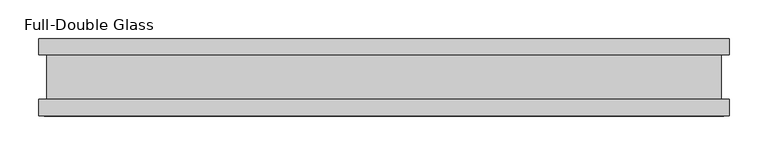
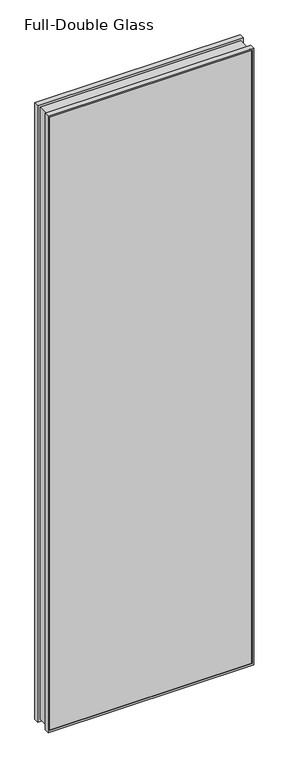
"""IFC4 building model written with IfcOpenShell, lengths in millimetres: proxy geometry, Panel-Fascia-Teknion-Altos-Double_Glass : Full-Double Glass."""

from ifc_helpers import new_model, si_unit, frame, origin, place, context, project, spatial, polyline, ellipse_curve, outline, extrude, source, transform, mapped, element, save
from ifc_brep_helpers import plane_surface, cylinder_surface, advanced_brep


def full_double_glass_8244c30e(model_context):
    return source(origin(), model_context, "Body", "SolidModel", [
        advanced_brep(
        [(447.6253906, -50.0558594, 2844.165), (447.6253906, -50.0558594, 3.175), (447.6253906, -28.2698798, 3.175), (447.6253906, -28.2698798, 2844.165), (440.1901828, -47.1322551, 2836.7297922), (440.1901828, -47.1322551, 10.6102078), (440.1901828, -50.0558594, 10.6102078), (440.1901828, -50.0558594, 2836.7297922), (445.4728643, -41.1791301, 2842.0124737), (445.4728643, -41.1791301, 5.3275263), (445.4728643, -47.1322551, 5.3275263), (445.4728643, -47.1322551, 2842.0124737), (439.6679752, 40.9277344, 2836.2075845), (439.6679752, 40.9277344, 11.1324155), (439.6679752, -41.1791301, 11.1324155), (439.6679752, -41.1791301, 2836.2075845), (445.4728643, 46.8808594, 2842.0124737), (445.4728643, 46.8808594, 5.3275263), (445.4728643, 40.9277344, 5.3275263), (445.4728643, 40.9277344, 2842.0124737), (440.1901828, 50.0558594, 2836.7297922), (440.1901828, 50.0558594, 10.6102078), (440.1901828, 46.8808594, 10.6102078), (440.1901828, 46.8808594, 2836.7297922), (447.6253906, 28.8801202, 2844.165), (447.6253906, 28.8801202, 3.175), (447.6253906, 50.0558594, 3.175), (447.6253906, 50.0558594, 2844.165), (436.7735493, -28.2698798, 2833.3131586), (436.7735493, -28.2698798, 14.0268414), (436.7735493, 28.8801202, 14.0268414), (436.7735493, 28.8801202, 2833.3131586), (-447.6253906, -50.0558594, 3.175), (-447.6253906, -28.2698798, 3.175), (-440.1901828, -47.1322551, 10.6102078), (-440.1901828, -50.0558594, 10.6102078), (-445.4728643, -41.1791301, 5.3275263), (-445.4728643, -47.1322551, 5.3275263), (-439.6679752, 40.9277344, 11.1324155), (-439.6679752, -41.1791301, 11.1324155), (-445.4728643, 46.8808594, 5.3275263), (-445.4728643, 40.9277344, 5.3275263), (-440.1901828, 50.0558594, 10.6102078), (-440.1901828, 46.8808594, 10.6102078), (-447.6253906, 28.8801202, 3.175), (-447.6253906, 50.0558594, 3.175), (-436.7735493, -28.2698798, 14.0268414), (-436.7735493, 28.8801202, 14.0268414), (-447.6253906, -50.0558594, 2844.165), (-447.6253906, -28.2698798, 2844.165), (-440.1901828, -47.1322551, 2836.7297922), (-440.1901828, -50.0558594, 2836.7297922), (-445.4728643, -41.1791301, 2842.0124737), (-445.4728643, -47.1322551, 2842.0124737), (-439.6679752, 40.9277344, 2836.2075845), (-439.6679752, -41.1791301, 2836.2075845), (-445.4728643, 46.8808594, 2842.0124737), (-445.4728643, 40.9277344, 2842.0124737), (-440.1901828, 50.0558594, 2836.7297922), (-440.1901828, 46.8808594, 2836.7297922), (-447.6253906, 28.8801202, 2844.165), (-447.6253906, 50.0558594, 2844.165), (-436.7735493, -28.2698798, 2833.3131586), (-436.7735493, 28.8801202, 2833.3131586)],
        [
            (0, 1),
            (1, 2),
            (2, 3),
            (3, 0),
            (4, 5),
            (5, 6),
            (6, 7),
            (7, 4),
            (8, 9),
            (9, 10),
            (10, 11),
            (11, 8),
            (12, 13),
            (13, 14, ellipse_curve(frame((479.0538175, -0.1256979, -28.2534268), z_axis=(0.7071067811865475, 0.0, 0.7071067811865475), x_axis=(-0.7071067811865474, 0.0, 0.7071067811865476)), 80.4565581, 56.8913778)),
            (14, 15),
            (15, 12, ellipse_curve(frame((479.0538175, -0.1256979, 2875.5934268), z_axis=(0.7071067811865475, 0.0, -0.7071067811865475), x_axis=(0.7071067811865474, 0.0, 0.7071067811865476)), 80.4565581, 56.8913778)),
            (16, 17),
            (17, 18),
            (18, 19),
            (19, 16),
            (20, 21),
            (21, 22),
            (22, 23),
            (23, 20),
            (24, 25),
            (25, 26),
            (26, 27),
            (27, 24),
            (28, 29),
            (29, 30),
            (30, 31),
            (31, 28),
            (1, 32),
            (32, 33),
            (33, 2),
            (5, 34),
            (34, 35),
            (35, 6),
            (9, 36),
            (36, 37),
            (37, 10),
            (13, 38),
            (38, 39, ellipse_curve(frame((-479.0538175, -0.1256979, -28.2534268), z_axis=(0.7071067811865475, 0.0, -0.7071067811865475), x_axis=(0.7071067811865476, 0.0, 0.7071067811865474)), 80.4565581, 56.8913778)),
            (39, 14),
            (17, 40),
            (40, 41),
            (41, 18),
            (21, 42),
            (42, 43),
            (43, 22),
            (25, 44),
            (44, 45),
            (45, 26),
            (29, 46),
            (46, 47),
            (47, 30),
            (32, 48),
            (48, 49),
            (49, 33),
            (34, 50),
            (50, 51),
            (51, 35),
            (36, 52),
            (52, 53),
            (53, 37),
            (38, 54),
            (54, 55, ellipse_curve(frame((-479.0538175, -0.1256979, 2875.5934268), z_axis=(-0.7071067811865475, 0.0, -0.7071067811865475), x_axis=(0.7071067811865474, 0.0, -0.7071067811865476)), 80.4565581, 56.8913778)),
            (55, 39),
            (40, 56),
            (56, 57),
            (57, 41),
            (42, 58),
            (58, 59),
            (59, 43),
            (44, 60),
            (60, 61),
            (61, 45),
            (46, 62),
            (62, 63),
            (63, 47),
            (48, 0),
            (3, 49),
            (51, 7),
            (50, 4),
            (53, 11),
            (52, 8),
            (55, 15),
            (54, 12),
            (57, 19),
            (56, 16),
            (59, 23),
            (58, 20),
            (61, 27),
            (60, 24),
            (63, 31),
            (62, 28),
        ],
        [
            plane_surface(frame((447.6253906, -28.2698798, 2844.165), z_axis=(1.0, 0.0, 0.0), x_axis=(0.0, 0.0, -1.0))),
            plane_surface(frame((440.1901828, -50.0558594, 2836.7297922), z_axis=(-1.0, 0.0, 0.0), x_axis=(0.0, 0.0, -1.0))),
            plane_surface(frame((445.4728643, -47.1322551, 2842.0124737), z_axis=(-1.0, 0.0, 0.0), x_axis=(0.0, 0.0, -1.0))),
            cylinder_surface(frame((479.0538175, -0.1256979, 2844.165), z_axis=(0.0, 0.0, 1.0), x_axis=(1.0, 0.0, 0.0)), 56.8913778),
            plane_surface(frame((445.4728643, 40.9277344, 2842.0124737), z_axis=(-1.0, 0.0, 0.0), x_axis=(0.0, 0.0, -1.0))),
            plane_surface(frame((440.1901828, 46.8808594, 2836.7297922), z_axis=(-1.0, 0.0, 0.0), x_axis=(0.0, 0.0, -1.0))),
            plane_surface(frame((447.6253906, 50.0558594, 2844.165), z_axis=(1.0, 0.0, 0.0), x_axis=(0.0, 0.0, -1.0))),
            plane_surface(frame((436.7735493, 28.8801202, 2833.3131586), z_axis=(1.0, 0.0, 0.0), x_axis=(0.0, 0.0, -1.0))),
            plane_surface(frame((447.6253906, -28.2698798, 3.175), z_axis=(0.0, 0.0, -1.0), x_axis=(-1.0, 0.0, 0.0))),
            plane_surface(frame((440.1901828, -50.0558594, 10.6102078), z_axis=(0.0, 0.0, 1.0), x_axis=(-1.0, 0.0, 0.0))),
            plane_surface(frame((445.4728643, -47.1322551, 5.3275263), z_axis=(0.0, 0.0, 1.0), x_axis=(-1.0, 0.0, 0.0))),
            cylinder_surface(frame((447.6253906, -0.1256979, -28.2534268), z_axis=(1.0, 0.0, 0.0), x_axis=(0.0, 0.0, -1.0)), 56.8913778),
            plane_surface(frame((445.4728643, 40.9277344, 5.3275263), z_axis=(0.0, 0.0, 1.0), x_axis=(-1.0, 0.0, 0.0))),
            plane_surface(frame((440.1901828, 46.8808594, 10.6102078), z_axis=(0.0, 0.0, 1.0), x_axis=(-1.0, 0.0, 0.0))),
            plane_surface(frame((447.6253906, 50.0558594, 3.175), z_axis=(0.0, 0.0, -1.0), x_axis=(-1.0, 0.0, 0.0))),
            plane_surface(frame((436.7735493, 28.8801202, 14.0268414), z_axis=(0.0, 0.0, -1.0), x_axis=(-1.0, 0.0, 0.0))),
            plane_surface(frame((-447.6253906, -28.2698798, 3.175), z_axis=(-1.0, 0.0, 0.0), x_axis=(0.0, 0.0, 1.0))),
            plane_surface(frame((-440.1901828, -50.0558594, 10.6102078), z_axis=(1.0, 0.0, 0.0), x_axis=(0.0, 0.0, 1.0))),
            plane_surface(frame((-445.4728643, -47.1322551, 5.3275263), z_axis=(1.0, 0.0, 0.0), x_axis=(0.0, 0.0, 1.0))),
            cylinder_surface(frame((-479.0538175, -0.1256979, 3.175), z_axis=(0.0, 0.0, -1.0), x_axis=(-1.0, 0.0, 0.0)), 56.8913778),
            plane_surface(frame((-445.4728643, 40.9277344, 5.3275263), z_axis=(1.0, 0.0, 0.0), x_axis=(0.0, 0.0, 1.0))),
            plane_surface(frame((-440.1901828, 46.8808594, 10.6102078), z_axis=(1.0, 0.0, 0.0), x_axis=(0.0, 0.0, 1.0))),
            plane_surface(frame((-447.6253906, 50.0558594, 3.175), z_axis=(-1.0, 0.0, 0.0), x_axis=(0.0, 0.0, 1.0))),
            plane_surface(frame((-436.7735493, 28.8801202, 14.0268414), z_axis=(-1.0, 0.0, 0.0), x_axis=(0.0, 0.0, 1.0))),
            plane_surface(frame((-447.6253906, -28.2698798, 2844.165), z_axis=(0.0, 0.0, 1.0), x_axis=(1.0, 0.0, 0.0))),
            plane_surface(frame((-447.6253906, -50.0558594, 2844.165), z_axis=(0.0, -1.0, 0.0), x_axis=(1.0, 0.0, 0.0))),
            plane_surface(frame((-440.1901828, -50.0558594, 2836.7297922), z_axis=(0.0, 0.0, -1.0), x_axis=(1.0, 0.0, 0.0))),
            plane_surface(frame((-440.1901828, -47.1322551, 2836.7297922), z_axis=(0.0, 1.0, 0.0), x_axis=(1.0, 0.0, 0.0))),
            plane_surface(frame((-445.4728643, -47.1322551, 2842.0124737), z_axis=(0.0, 0.0, -1.0), x_axis=(1.0, 0.0, 0.0))),
            plane_surface(frame((-445.4728643, -41.1791301, 2842.0124737), z_axis=(0.0, -1.0, 0.0), x_axis=(1.0, 0.0, 0.0))),
            cylinder_surface(frame((-447.6253906, -0.1256979, 2875.5934268), z_axis=(-1.0, 0.0, 0.0), x_axis=(0.0, 0.0, 1.0)), 56.8913778),
            plane_surface(frame((-439.6679752, 40.9277344, 2836.2075845), z_axis=(0.0, 1.0, 0.0), x_axis=(1.0, 0.0, 0.0))),
            plane_surface(frame((-445.4728643, 40.9277344, 2842.0124737), z_axis=(0.0, 0.0, -1.0), x_axis=(1.0, 0.0, 0.0))),
            plane_surface(frame((-445.4728643, 46.8808594, 2842.0124737), z_axis=(0.0, -1.0, 0.0), x_axis=(1.0, 0.0, 0.0))),
            plane_surface(frame((-440.1901828, 46.8808594, 2836.7297922), z_axis=(0.0, 0.0, -1.0), x_axis=(1.0, 0.0, 0.0))),
            plane_surface(frame((-440.1901828, 50.0558594, 2836.7297922), z_axis=(0.0, 1.0, 0.0), x_axis=(1.0, 0.0, 0.0))),
            plane_surface(frame((-447.6253906, 50.0558594, 2844.165), z_axis=(0.0, 0.0, 1.0), x_axis=(1.0, 0.0, 0.0))),
            plane_surface(frame((-447.6253906, 28.8801202, 2844.165), z_axis=(0.0, -1.0, 0.0), x_axis=(1.0, 0.0, 0.0))),
            plane_surface(frame((-436.7735493, 28.8801202, 2833.3131586), z_axis=(0.0, 0.0, 1.0), x_axis=(1.0, 0.0, 0.0))),
            plane_surface(frame((-436.7735493, -28.2698798, 2833.3131586), z_axis=(0.0, 1.0, 0.0), x_axis=(1.0, 0.0, 0.0))),
        ],
        [
            (0, [[1, 2, 3, 4]]),
            (1, [[5, 6, 7, 8]]),
            (2, [[9, 10, 11, 12]]),
            (3, [[13, 14, 15, 16]]),
            (4, [[17, 18, 19, 20]]),
            (5, [[21, 22, 23, 24]]),
            (6, [[25, 26, 27, 28]]),
            (7, [[29, 30, 31, 32]]),
            (8, [[33, 34, 35, -2]]),
            (9, [[36, 37, 38, -6]]),
            (10, [[39, 40, 41, -10]]),
            (11, [[42, 43, 44, -14]]),
            (12, [[45, 46, 47, -18]]),
            (13, [[48, 49, 50, -22]]),
            (14, [[51, 52, 53, -26]]),
            (15, [[54, 55, 56, -30]]),
            (16, [[57, 58, 59, -34]]),
            (17, [[60, 61, 62, -37]]),
            (18, [[63, 64, 65, -40]]),
            (19, [[66, 67, 68, -43]]),
            (20, [[69, 70, 71, -46]]),
            (21, [[72, 73, 74, -49]]),
            (22, [[75, 76, 77, -52]]),
            (23, [[78, 79, 80, -55]]),
            (24, [[81, -4, 82, -58]]),
            (25, [[-1, -81, -57, -33], [-7, -38, -62, 83]]),
            (26, [[84, -8, -83, -61]]),
            (27, [[-11, -41, -65, 85], [-5, -84, -60, -36]]),
            (28, [[86, -12, -85, -64]]),
            (29, [[-9, -86, -63, -39], [-15, -44, -68, 87]]),
            (30, [[88, -16, -87, -67]]),
            (31, [[-19, -47, -71, 89], [-13, -88, -66, -42]]),
            (32, [[90, -20, -89, -70]]),
            (33, [[-17, -90, -69, -45], [-23, -50, -74, 91]]),
            (34, [[92, -24, -91, -73]]),
            (35, [[-27, -53, -77, 93], [-21, -92, -72, -48]]),
            (36, [[94, -28, -93, -76]]),
            (37, [[-25, -94, -75, -51], [-31, -56, -80, 95]]),
            (38, [[96, -32, -95, -79]]),
            (39, [[-3, -35, -59, -82], [-29, -96, -78, -54]]),
        ],
    ),
        extrude(outline(polyline([(445.4728643, 40.9277344), (-445.4728643, 40.9277344), (-445.4728643, 46.8808594), (445.4728643, 46.8808594), (445.4728643, 40.9277344)])), frame((0.0, 0.0, 5.3275263), z_axis=(0.0, 0.0, 1.0), x_axis=(1.0, 0.0, 0.0)), (0.0, 0.0, 1.0), 2836.190928),
        extrude(outline(polyline([(445.4728643, -41.1791301), (445.4728643, -47.1322551), (-445.4728643, -47.1322551), (-445.4728643, -41.1791301), (445.4728643, -41.1791301)])), frame((0.0, 0.0, 5.3275263), z_axis=(0.0, 0.0, 1.0), x_axis=(1.0, 0.0, 0.0)), (0.0, 0.0, 1.0), 2836.190928),
    ])


if __name__ == "__main__":
    model = new_model("IFC4")
    model_context = context("Model", 3, world=origin())
    ifc_project = project(units=[si_unit("LENGTHUNIT", "METRE", prefix="MILLI")], contexts=[model_context])
    site = spatial("IfcSite", under=ifc_project)
    building = spatial("IfcBuilding", under=site)
    placement = place(None, origin())
    full_double_glass_shape = full_double_glass_8244c30e(model_context)
    element("IfcBuildingElementProxy", 1, Name="Panel-Fascia-Teknion-Altos-Double_Glass : Full-Double Glass", ObjectType="Panel-Fascia-Teknion-Altos-Double_Glass : Full-Double Glass", at=placement, inside=building, context=model_context, shape_type="MappedRepresentation", body=[
        mapped(full_double_glass_shape, transform((0.0, 0.0, 0.0), x_axis=(1.0, 0.0, 0.0), y_axis=(0.0, 1.0, 0.0), z_axis=(0.0, 0.0, 1.0))),
    ])
    save(model, "model.ifc")
